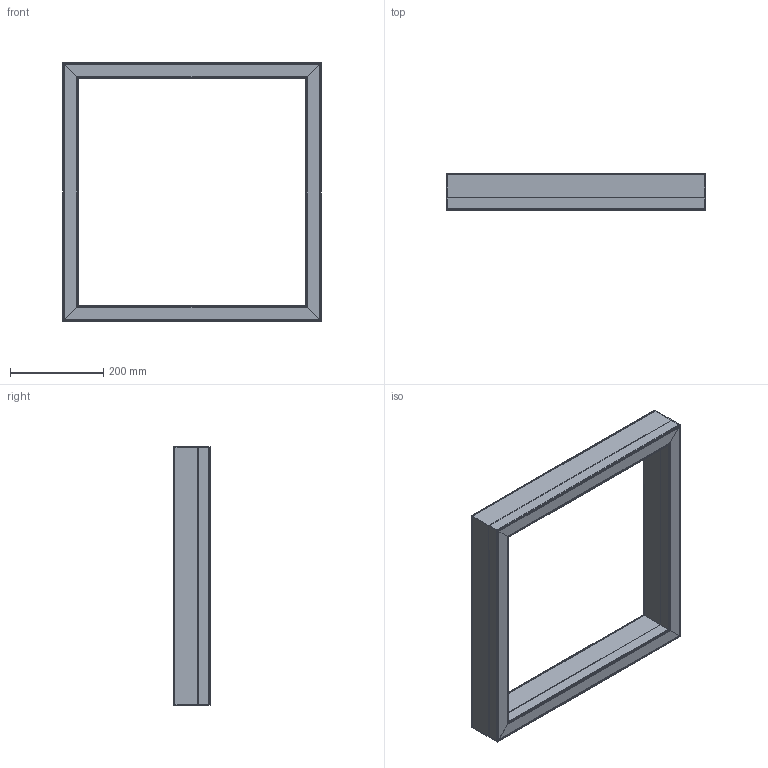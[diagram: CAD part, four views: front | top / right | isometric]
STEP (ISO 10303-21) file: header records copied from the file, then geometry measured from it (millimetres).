
FILE_DESCRIPTION(('STEP AP203'), '1');
FILE_NAME('Ìàòèê Êâàäðèê 40Âò', '', ('UNSPECIFIED'), ('UNSPECIFIED'), 'ASCON STEP Converter 1.6', 'ASCON Math Kernel', '');
FILE_SCHEMA(('CONFIG_CONTROL_DESIGN'));
Length unit declared in the file: millimetre
Assembly tree (4 placements, depth 2):
  (unnamed)
    (unnamed)
    (unnamed)  x2
    (unnamed)
Bounding box: 556 x 80 x 556 mm (x, y, z)
Volume: 836518.3 mm3; surface area: 1310182.8 mm2
Topology: 9 solids, 9 shells, 731 faces, 2131 edges, 1420 vertices
Faces by surface type: cylinder 397, plane 332, torus 2
Full cylindrical faces by diameter (mm): 8 x1, 10 x2, 14 x2
Entity records: 18313 total; most frequent: CARTESIAN_POINT 5020, ORIENTED_EDGE 3192, DIRECTION 2132, EDGE_CURVE 1596, VERTEX_POINT 1068, LINE 996, VECTOR 996, EDGE_LOOP 570
